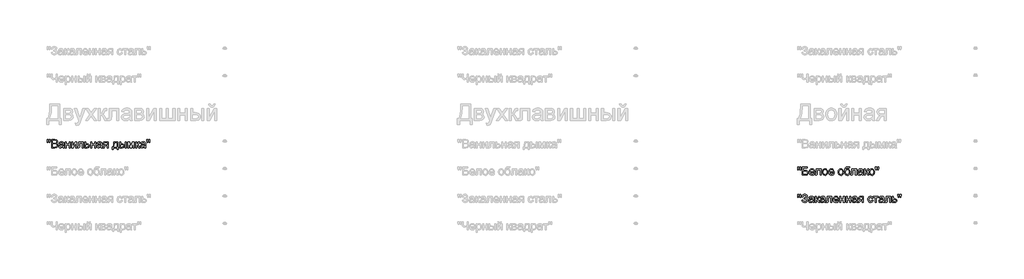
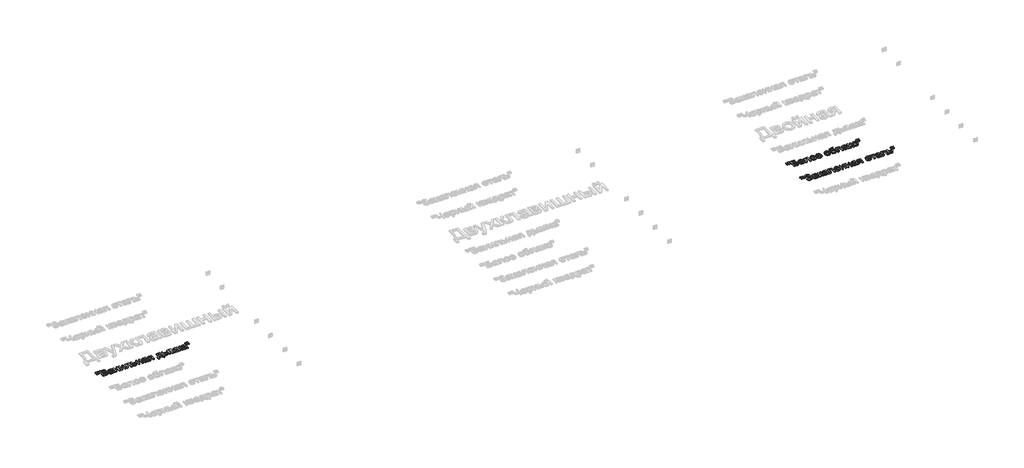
# One storey, part 134 of 168: 3 proxies.
"""IFC4 building model written with IfcOpenShell, lengths in millimetres."""

from ifc_helpers import new_model, si_unit, origin, origin_with_axes, place, context, project, spatial, polyline, outline, extrude, element, save

model = new_model("IFC4")

# Units and contexts
model_context = context("Model", 3, world=origin())
ifc_project = project(units=[si_unit("LENGTHUNIT", "METRE", prefix="MILLI")], contexts=[model_context])

# Site, building, storey
site = spatial("IfcSite", under=ifc_project)
building = spatial("IfcBuilding", under=site)
storey = spatial("IfcBuildingStorey", under=building, Name="Этаж 01", Elevation=0.0)

# Proxies
placement = place(None, origin())
element("IfcBuildingElementProxy", 1, Name="150", ObjectType="150", at=placement, inside=storey, context=model_context, shape_type="SweptSolid", body=[
    extrude(outline(polyline([(63580.1485789, -23951.873446), (63575.550054, -23922.7739802), (63575.550054, -23897.7212163), (63594.3856121, -23897.7212163), (63594.3856121, -23922.7739802), (63590.2653338, -23951.873446), (63580.1485789, -23951.873446)])), origin_with_axes(), (0.0, 0.0, 1.0), 20.0),
    extrude(outline(polyline([(63617.7093306, -23951.873446), (63613.2211703, -23922.7739802), (63613.2211703, -23897.7212163), (63632.0567284, -23897.7212163), (63632.0567284, -23922.7739802), (63627.6421445, -23951.873446), (63617.7093306, -23951.873446)])), origin_with_axes(), (0.0, 0.0, 1.0), 20.0),
    extrude(outline(polyline([(63657.9556209, -24048.4056816), (63657.9556209, -23897.7212163), (63715.4555767, -23897.7212163), (63743.6169435, -23902.1541944), (63753.0807078, -23907.7781904), (63760.2452096, -23915.7842223), (63766.2600803, -23935.0612389), (63761.2017028, -23952.6643923), (63745.9162059, -23966.0001146), (63756.5893823, -23971.5735269), (63764.4758526, -23980.0532069), (63769.3456905, -23990.8781346), (63770.9689698, -24003.48729), (63766.5359918, -24023.7391938), (63755.5547142, -24038.160168), (63739.1655713, -24045.8121135), (63715.0141183, -24048.4056816), (63657.9556209, -24048.4056816)]), holes=[polyline([(63676.791179, -23958.9367803), (63711.1881456, -23958.9367803), (63731.2745025, -23957.3180996), (63743.3594261, -23950.3467358), (63747.4245221, -23938.0778712), (63743.6353376, -23925.7906126), (63732.7828187, -23918.5249432), (63708.5761834, -23916.5567745), (63676.791179, -23916.5567745), (63676.791179, -23958.9367803)]), polyline([(63676.791179, -24029.5701234), (63715.4187885, -24029.5701234), (63729.3983043, -24028.8343594), (63741.2257105, -24024.7324752), (63749.061597, -24016.3631598), (63752.1334117, -24003.671231), (63748.5281681, -23989.0295275), (63736.8479148, -23980.2923302), (63713.5793786, -23977.7723385), (63676.791179, -23977.7723385), (63676.791179, -24029.5701234)])]), origin_with_axes(), (0.0, 0.0, 1.0), 20.0),
    extrude(outline(polyline([(63865.1467606, -24034.279013), (63846.8814195, -24047.0445182), (63826.7030921, -24050.7601263), (63810.9623412, -24048.5252432), (63799.3510657, -24041.8205939), (63792.1911624, -24031.6394596), (63789.804528, -24018.975122), (63793.4097715, -24004.0759012), (63802.8827329, -23993.2601705), (63816.0713024, -23987.079753), (63832.3684748, -23984.2470616), (63865.036396, -23977.7723385), (63865.1467606, -23973.5784838), (63863.8499765, -23965.1723802), (63859.9596244, -23959.6725443), (63851.2592153, -23955.5890542), (63839.1375035, -23954.2278908), (63820.0812162, -23957.8515285), (63810.9945309, -23970.7090042), (63792.1589727, -23968.3545594), (63800.3075589, -23949.9604597), (63816.7150959, -23939.1815172), (63841.5655247, -23935.3923327), (63864.3926025, -23938.7400588), (63877.2868664, -23947.1461624), (63883.0626137, -23959.9300617), (63883.9823187, -23976.4111751), (63883.9823187, -23999.8452582), (63884.9388119, -24032.5683617), (63888.6912083, -24048.4056816), (63869.8556501, -24048.4056816), (63865.1467606, -24034.279013)]), holes=[polyline([(63865.1467606, -23996.6078966), (63834.7597078, -24002.383644), (63818.5545059, -24005.4370645), (63811.2152601, -24010.4034715), (63808.6400861, -24017.6507468), (63814.2502865, -24027.841078), (63830.7130058, -24031.9245682), (63849.7692932, -24027.4180137), (63862.0565518, -24016.5103126), (63865.036396, -24001.9421856), (63865.1467606, -23996.6078966)])]), origin_with_axes(), (0.0, 0.0, 1.0), 20.0),
    extrude(outline(polyline([(63909.8812112, -23937.7467774), (63928.7167693, -23937.7467774), (63928.7167693, -23980.1267833), (63978.1601095, -23980.1267833), (63978.1601095, -23937.7467774), (63996.9956676, -23937.7467774), (63996.9956676, -24048.4056816), (63978.1601095, -24048.4056816), (63978.1601095, -23998.9623414), (63928.7167693, -23998.9623414), (63928.7167693, -24048.4056816), (63909.8812112, -24048.4056816), (63909.8812112, -23937.7467774)])), origin_with_axes(), (0.0, 0.0, 1.0), 20.0),
    extrude(outline(polyline([(64025.2490049, -23937.7467774), (64044.084563, -23937.7467774), (64044.084563, -24022.1389071), (64090.364118, -23937.7467774), (64114.7179061, -23937.7467774), (64114.7179061, -24048.4056816), (64095.8823479, -24048.4056816), (64095.8823479, -23964.5285867), (64049.8970985, -24048.4056816), (64025.2490049, -24048.4056816), (64025.2490049, -23937.7467774)])), origin_with_axes(), (0.0, 0.0, 1.0), 20.0),
    extrude(outline(polyline([(64152.3890224, -23937.7467774), (64237.1490341, -23937.7467774), (64237.1490341, -24048.295317), (64218.3134759, -24048.295317), (64218.3134759, -23956.5823356), (64171.2245806, -23956.5823356), (64171.2245806, -24009.3734019), (64169.9553877, -24033.72719), (64162.9840239, -24044.0094917), (64146.5029105, -24048.4056816), (64131.1990195, -24047.4491884), (64131.1990195, -24029.5701234), (64139.6235172, -24029.5701234), (64148.1399854, -24028.4112951), (64151.5428938, -24024.7324752), (64152.3890224, -24008.3065441), (64152.3890224, -23937.7467774)])), origin_with_axes(), (0.0, 0.0, 1.0), 20.0),
    extrude(outline(polyline([(64265.4023713, -23937.7467774), (64284.2379295, -23937.7467774), (64284.2379295, -23977.7723385), (64305.9429672, -23977.7723385), (64324.7601312, -23980.1313818), (64338.6844648, -23987.2085117), (64347.2929034, -23998.433511), (64350.162383, -24013.2361628), (64347.7205663, -24026.7144394), (64340.395116, -24038.0865916), (64327.6985887, -24045.8259091), (64309.1435405, -24048.4056816), (64265.4023713, -24048.4056816), (64265.4023713, -23937.7467774)]), holes=[polyline([(64284.2379295, -24029.5701234), (64301.8226888, -24029.5701234), (64324.539402, -24025.615392), (64329.6299692, -24020.552416), (64331.3268249, -24013.272951), (64326.3052356, -24001.6846682), (64318.2348244, -23997.8770895), (64304.066769, -23996.6078966), (64284.2379295, -23996.6078966), (64284.2379295, -24029.5701234)])]), origin_with_axes(), (0.0, 0.0, 1.0), 20.0),
    extrude(outline(polyline([(64373.7068307, -23937.7467774), (64392.5423889, -23937.7467774), (64392.5423889, -23980.1267833), (64441.985729, -23980.1267833), (64441.985729, -23937.7467774), (64460.8212872, -23937.7467774), (64460.8212872, -24048.4056816), (64441.985729, -24048.4056816), (64441.985729, -23998.9623414), (64392.5423889, -23998.9623414), (64392.5423889, -24048.4056816), (64373.7068307, -24048.4056816), (64373.7068307, -23937.7467774)])), origin_with_axes(), (0.0, 0.0, 1.0), 20.0),
    extrude(outline(polyline([(64559.7079675, -24034.279013), (64541.4426264, -24047.0445182), (64521.264299, -24050.7601263), (64505.5235481, -24048.5252432), (64493.9122726, -24041.8205939), (64486.7523693, -24031.6394596), (64484.3657349, -24018.975122), (64487.9709784, -24004.0759012), (64497.4439398, -23993.2601705), (64510.6325093, -23987.079753), (64526.9296817, -23984.2470616), (64559.5976029, -23977.7723385), (64559.7079675, -23973.5784838), (64558.4111834, -23965.1723802), (64554.5208313, -23959.6725443), (64545.8204221, -23955.5890542), (64533.6987104, -23954.2278908), (64514.6424231, -23957.8515285), (64505.5557378, -23970.7090042), (64486.7201796, -23968.3545594), (64494.8687658, -23949.9604597), (64511.2763028, -23939.1815172), (64536.1267316, -23935.3923327), (64558.9538094, -23938.7400588), (64571.8480733, -23947.1461624), (64577.6238206, -23959.9300617), (64578.5435256, -23976.4111751), (64578.5435256, -23999.8452582), (64579.5000188, -24032.5683617), (64583.2524152, -24048.4056816), (64564.416857, -24048.4056816), (64559.7079675, -24034.279013)]), holes=[polyline([(64559.7079675, -23996.6078966), (64529.3209147, -24002.383644), (64513.1157128, -24005.4370645), (64505.776467, -24010.4034715), (64503.201293, -24017.6507468), (64508.8114934, -24027.841078), (64525.2742127, -24031.9245682), (64544.3305001, -24027.4180137), (64556.6177587, -24016.5103126), (64559.5976029, -24001.9421856), (64559.7079675, -23996.6078966)])]), origin_with_axes(), (0.0, 0.0, 1.0), 20.0),
    extrude(outline(polyline([(64689.2024298, -23937.7467774), (64689.2024298, -24048.4056816), (64670.3668716, -24048.4056816), (64670.3668716, -24006.0256757), (64660.1029639, -24006.0256757), (64646.1234481, -24008.4169087), (64632.9900609, -24024.4933519), (64617.9804755, -24048.4056816), (64596.2018614, -24048.4056816), (64615.1109959, -24018.1657816), (64623.4619172, -24007.3132627), (64631.1506509, -24002.4940086), (64618.2747811, -23998.5484742), (64609.224884, -23991.0528785), (64603.872201, -23981.0832765), (64602.0879733, -23969.7157228), (64604.5251915, -23956.8214589), (64611.8368462, -23946.6127335), (64623.7654199, -23939.9632664), (64640.0533952, -23937.7467774), (64689.2024298, -23937.7467774)]), holes=[polyline([(64670.3668716, -23956.5823356), (64645.5348369, -23956.5823356), (64632.7095509, -23957.672186), (64625.4300859, -23960.9417372), (64620.9235315, -23971.1504626), (64622.583599, -23978.32876), (64627.5638015, -23983.3089625), (64651.0898551, -23987.1901176), (64670.3668716, -23987.1901176), (64670.3668716, -23956.5823356)])]), origin_with_axes(), (0.0, 0.0, 1.0), 20.0),
    extrude(outline(polyline([(64792.7979996, -23937.7467774), (64863.4313427, -23937.7467774), (64863.4313427, -24029.5701234), (64877.5580113, -24029.5701234), (64877.5580113, -24079.0134636), (64858.7224531, -24079.0134636), (64858.7224531, -24048.4056816), (64781.0257758, -24048.4056816), (64781.0257758, -24079.0134636), (64762.1902176, -24079.0134636), (64762.1902176, -24029.5701234), (64773.9624415, -24029.5701234), (64782.5202964, -24014.105284), (64788.5121744, -23993.6464466), (64792.7979996, -23937.7467774)]), holes=[polyline([(64809.279113, -23956.5823356), (64804.864529, -23999.4957703), (64795.1524444, -24029.5701234), (64844.5957845, -24029.5701234), (64844.5957845, -23956.5823356), (64809.279113, -23956.5823356)])]), origin_with_axes(), (0.0, 0.0, 1.0), 20.0),
    extrude(outline(polyline([(65002.3435841, -23937.7467774), (65021.1791422, -23937.7467774), (65021.1791422, -24048.4056816), (65002.3435841, -24048.4056816), (65002.3435841, -23937.7467774)])), origin_with_axes(), (0.0, 0.0, 1.0), 20.0),
    extrude(outline(polyline([(64898.7480142, -23937.7467774), (64917.5835724, -23937.7467774), (64917.5835724, -23977.7723385), (64940.8705027, -23977.7723385), (64960.9982463, -23980.1313818), (64975.9112627, -23987.2085117), (64985.1405023, -23998.433511), (64988.2169154, -24013.2361628), (64985.637143, -24026.7144394), (64977.8978255, -24038.0865916), (64964.4931253, -24045.8259091), (64944.9172046, -24048.4056816), (64898.7480142, -24048.4056816), (64898.7480142, -23937.7467774)]), holes=[polyline([(64917.5835724, -24029.5701234), (64936.9341653, -24029.5701234), (64961.9133528, -24025.615392), (64967.5143562, -24020.552416), (64969.3813573, -24013.272951), (64963.8447333, -24001.6846682), (64954.9649816, -23997.8770895), (64939.3989747, -23996.6078966), (64917.5835724, -23996.6078966), (64917.5835724, -24029.5701234)])]), origin_with_axes(), (0.0, 0.0, 1.0), 20.0),
    extrude(outline(polyline([(65049.4324794, -23937.7467774), (65081.8428832, -23937.7467774), (65106.8220707, -24026.3327619), (65133.7510327, -23937.7467774), (65164.8002731, -23937.7467774), (65164.8002731, -24048.4056816), (65145.964715, -24048.4056816), (65145.964715, -23959.3046623), (65118.8886001, -24048.4056816), (65094.1669301, -24048.4056816), (65068.2680376, -23955.0372312), (65068.2680376, -24048.4056816), (65049.4324794, -24048.4056816), (65049.4324794, -23937.7467774)])), origin_with_axes(), (0.0, 0.0, 1.0), 20.0),
    extrude(outline(polyline([(65193.0536104, -23937.7467774), (65211.8891685, -23937.7467774), (65211.8891685, -23984.8356728), (65224.5075209, -23981.4511584), (65234.845005, -23961.7326835), (65243.4350496, -23944.7181412), (65251.0134187, -23939.1815172), (65264.7905994, -23937.7467774), (65268.395843, -23937.7467774), (65268.395843, -23956.6927002), (65263.3190714, -23956.5823356), (65254.1220216, -23958.5688983), (65247.6472984, -23970.9665216), (65240.0505352, -23984.3758203), (65229.4003515, -23990.9425139), (65241.2829399, -23998.2725627), (65252.9447992, -24013.7144094), (65273.1047325, -24048.4056816), (65251.6940004, -24048.4056816), (65231.9387372, -24014.4501734), (65222.0059234, -24000.0843815), (65211.8891685, -23996.6078966), (65211.8891685, -24048.4056816), (65193.0536104, -24048.4056816), (65193.0536104, -23937.7467774)])), origin_with_axes(), (0.0, 0.0, 1.0), 20.0),
    extrude(outline(polyline([(65355.5102994, -24034.279013), (65337.2449584, -24047.0445182), (65317.0666309, -24050.7601263), (65301.3258801, -24048.5252432), (65289.7146046, -24041.8205939), (65282.5547013, -24031.6394596), (65280.1680668, -24018.975122), (65283.7733104, -24004.0759012), (65293.2462717, -23993.2601705), (65306.4348413, -23987.079753), (65322.7320137, -23984.2470616), (65355.3999348, -23977.7723385), (65355.5102994, -23973.5784838), (65354.2135154, -23965.1723802), (65350.3231633, -23959.6725443), (65341.6227541, -23955.5890542), (65329.5010424, -23954.2278908), (65310.444755, -23957.8515285), (65301.3580697, -23970.7090042), (65282.5225116, -23968.3545594), (65290.6710978, -23949.9604597), (65307.0786348, -23939.1815172), (65331.9290635, -23935.3923327), (65354.7561413, -23938.7400588), (65367.6504053, -23947.1461624), (65373.4261526, -23959.9300617), (65374.3458576, -23976.4111751), (65374.3458576, -23999.8452582), (65375.3023508, -24032.5683617), (65379.0547471, -24048.4056816), (65360.219189, -24048.4056816), (65355.5102994, -24034.279013)]), holes=[polyline([(65355.5102994, -23996.6078966), (65325.1232466, -24002.383644), (65308.9180447, -24005.4370645), (65301.5787989, -24010.4034715), (65299.003625, -24017.6507468), (65304.6138254, -24027.841078), (65321.0765447, -24031.9245682), (65340.132832, -24027.4180137), (65352.4200907, -24016.5103126), (65355.3999348, -24001.9421856), (65355.5102994, -23996.6078966)])]), origin_with_axes(), (0.0, 0.0, 1.0), 20.0),
    extrude(outline(polyline([(65400.1343854, -23951.873446), (65395.5358605, -23922.7739802), (65395.5358605, -23897.7212163), (65414.3714187, -23897.7212163), (65414.3714187, -23922.7739802), (65410.2511403, -23951.873446), (65400.1343854, -23951.873446)])), origin_with_axes(), (0.0, 0.0, 1.0), 20.0),
    extrude(outline(polyline([(65437.6951372, -23951.873446), (65433.2069768, -23922.7739802), (65433.2069768, -23897.7212163), (65452.042535, -23897.7212163), (65452.042535, -23922.7739802), (65447.627951, -23951.873446), (65437.6951372, -23951.873446)])), origin_with_axes(), (0.0, 0.0, 1.0), 20.0),
])
element("IfcBuildingElementProxy", 2, Name="150", ObjectType="150", at=placement, inside=storey, context=model_context, shape_type="SweptSolid", body=[
    extrude(outline(polyline([(77280.1485789, -24451.873446), (77275.550054, -24422.7739802), (77275.550054, -24397.7212163), (77294.3856121, -24397.7212163), (77294.3856121, -24422.7739802), (77290.2653338, -24451.873446), (77280.1485789, -24451.873446)])), origin_with_axes(), (0.0, 0.0, 1.0), 20.0),
    extrude(outline(polyline([(77317.7093306, -24451.873446), (77313.2211703, -24422.7739802), (77313.2211703, -24397.7212163), (77332.0567284, -24397.7212163), (77332.0567284, -24422.7739802), (77327.6421445, -24451.873446), (77317.7093306, -24451.873446)])), origin_with_axes(), (0.0, 0.0, 1.0), 20.0),
    extrude(outline(polyline([(77357.9556209, -24397.7212163), (77452.1334117, -24397.7212163), (77452.1334117, -24416.5567745), (77376.791179, -24416.5567745), (77376.791179, -24461.2912251), (77412.0710624, -24461.2912251), (77443.157091, -24465.1171979), (77453.5589544, -24470.6446248), (77461.6615553, -24479.5749603), (77466.8762826, -24491.0712726), (77468.614525, -24504.2966303), (77463.6665122, -24525.7625448), (77448.8960501, -24542.0781113), (77435.6247071, -24546.823789), (77415.4555767, -24548.4056816), (77357.9556209, -24548.4056816), (77357.9556209, -24397.7212163)]), holes=[polyline([(77376.791179, -24529.5701234), (77417.1478339, -24529.5701234), (77431.4124583, -24528.015822), (77441.6119866, -24523.3529177), (77447.7372218, -24515.5814105), (77449.7789669, -24504.7013005), (77445.1068655, -24489.9492325), (77432.102237, -24482.0765578), (77403.7201411, -24480.1267833), (77376.791179, -24480.1267833), (77376.791179, -24529.5701234)])]), origin_with_axes(), (0.0, 0.0, 1.0), 20.0),
    extrude(outline(polyline([(77569.6349209, -24515.4434548), (77588.1025971, -24517.7978996), (77581.4485315, -24531.713036), (77570.8305374, -24542.1148995), (77556.4877381, -24548.5988196), (77538.6592569, -24550.7601263), (77516.5587461, -24547.0307226), (77499.5534008, -24535.8425114), (77488.710079, -24517.9220597), (77485.0956384, -24493.9959345), (77488.7468672, -24469.2650674), (77499.7005536, -24450.7698), (77516.4759726, -24439.2366995), (77537.5923991, -24435.3923327), (77558.0512366, -24439.2275025), (77574.3989927, -24450.7330118), (77585.1181544, -24469.191491), (77588.6912083, -24493.8855699), (77588.5808437, -24498.9623414), (77503.9311966, -24498.9623414), (77507.1915508, -24513.0614189), (77514.7653213, -24523.4264941), (77525.6960151, -24529.8000497), (77539.0271389, -24531.9245682), (77557.4948151, -24527.9882308), (77569.6349209, -24515.4434548)]), holes=[polyline([(77503.9311966, -24480.1267833), (77569.8556501, -24480.1267833), (77567.3080673, -24470.1755753), (77562.3140692, -24463.0570587), (77551.3327917, -24456.4351828), (77537.5188227, -24454.2278908), (77524.8222954, -24455.9891259), (77514.3238629, -24461.272831), (77507.0260039, -24469.5087892), (77503.9311966, -24480.1267833)])]), origin_with_axes(), (0.0, 0.0, 1.0), 20.0),
    extrude(outline(polyline([(77616.9445455, -24437.7467774), (77701.7045572, -24437.7467774), (77701.7045572, -24548.295317), (77682.868999, -24548.295317), (77682.868999, -24456.5823356), (77635.7801036, -24456.5823356), (77635.7801036, -24509.3734019), (77634.5109108, -24533.72719), (77627.539547, -24544.0094917), (77611.0584336, -24548.4056816), (77595.7545426, -24547.4491884), (77595.7545426, -24529.5701234), (77604.1790403, -24529.5701234), (77612.6955084, -24528.4112951), (77616.0984169, -24524.7324752), (77616.9445455, -24508.3065441), (77616.9445455, -24437.7467774)])), origin_with_axes(), (0.0, 0.0, 1.0), 20.0),
    extrude(outline(polyline([(77725.2490049, -24493.0762295), (77729.323298, -24466.3955878), (77741.5461773, -24447.6428031), (77756.6477332, -24438.4549503), (77774.7291332, -24435.3923327), (77794.516586, -24439.1217364), (77810.3217163, -24450.3099476), (77820.6821929, -24468.0740494), (77824.1356852, -24491.5311251), (77822.6089749, -24510.5598213), (77818.0288441, -24525.0451749), (77810.5286499, -24535.8930952), (77800.2417496, -24544.0094917), (77788.0234688, -24549.0724677), (77774.7291332, -24550.7601263), (77754.7025571, -24547.0445182), (77738.915821, -24535.8976937), (77728.6657089, -24517.7611114), (77725.2490049, -24493.0762295)]), holes=[polyline([(77744.084563, -24493.0394413), (77746.2642638, -24510.0861732), (77752.8033663, -24522.2308776), (77762.6442097, -24529.5011455), (77774.7291332, -24531.9245682), (77786.7588745, -24529.48735), (77796.5813237, -24522.1756953), (77803.1204262, -24509.8700426), (77805.300127, -24492.4508301), (77803.1066306, -24475.9007388), (77796.5261414, -24463.9215814), (77786.6898966, -24456.6513134), (77774.7291332, -24454.2278908), (77762.6442097, -24456.6421164), (77752.8033663, -24463.8847932), (77746.2642638, -24476.0019064), (77744.084563, -24493.0394413)])]), origin_with_axes(), (0.0, 0.0, 1.0), 20.0),
    extrude(outline(polyline([(77922.8016363, -24515.4434548), (77941.2693124, -24517.7978996), (77934.6152469, -24531.713036), (77923.9972528, -24542.1148995), (77909.6544535, -24548.5988196), (77891.8259723, -24550.7601263), (77869.7254614, -24547.0307226), (77852.7201162, -24535.8425114), (77841.8767944, -24517.9220597), (77838.2623538, -24493.9959345), (77841.9135826, -24469.2650674), (77852.867269, -24450.7698), (77869.642688, -24439.2366995), (77890.7591145, -24435.3923327), (77911.217952, -24439.2275025), (77927.5657081, -24450.7330118), (77938.2848698, -24469.191491), (77941.8579236, -24493.8855699), (77941.747559, -24498.9623414), (77857.0979119, -24498.9623414), (77860.3582661, -24513.0614189), (77867.9320367, -24523.4264941), (77878.8627305, -24529.8000497), (77892.1938543, -24531.9245682), (77910.6615304, -24527.9882308), (77922.8016363, -24515.4434548)]), holes=[polyline([(77857.0979119, -24480.1267833), (77923.0223655, -24480.1267833), (77920.4747827, -24470.1755753), (77915.4807846, -24463.0570587), (77904.499507, -24456.4351828), (77890.6855381, -24454.2278908), (77877.9890107, -24455.9891259), (77867.4905783, -24461.272831), (77860.1927192, -24469.5087892), (77857.0979119, -24480.1267833)])]), origin_with_axes(), (0.0, 0.0, 1.0), 20.0),
    extrude(outline(polyline([(78014.8457115, -24493.0762295), (78018.9200046, -24466.3955878), (78031.1428839, -24447.6428031), (78046.2444398, -24438.4549503), (78064.3258398, -24435.3923327), (78084.1132926, -24439.1217364), (78099.9184229, -24450.3099476), (78110.2788995, -24468.0740494), (78113.7323918, -24491.5311251), (78112.2056815, -24510.5598213), (78107.6255507, -24525.0451749), (78100.1253565, -24535.8930952), (78089.8384562, -24544.0094917), (78077.6201754, -24549.0724677), (78064.3258398, -24550.7601263), (78044.2992637, -24547.0445182), (78028.5125276, -24535.8976937), (78018.2624155, -24517.7611114), (78014.8457115, -24493.0762295)]), holes=[polyline([(78033.6812696, -24493.0394413), (78035.8609704, -24510.0861732), (78042.4000729, -24522.2308776), (78052.2409163, -24529.5011455), (78064.3258398, -24531.9245682), (78076.3555811, -24529.48735), (78086.1780303, -24522.1756953), (78092.7171328, -24509.8700426), (78094.8968336, -24492.4508301), (78092.7033372, -24475.9007388), (78086.122848, -24463.9215814), (78076.2866032, -24456.6513134), (78064.3258398, -24454.2278908), (78052.2409163, -24456.6421164), (78042.4000729, -24463.8847932), (78035.8609704, -24476.0019064), (78033.6812696, -24493.0394413)])]), origin_with_axes(), (0.0, 0.0, 1.0), 20.0),
    extrude(outline(polyline([(78212.6190721, -24395.3667716), (78229.1001855, -24395.3667716), (78224.2441431, -24410.0636573), (78214.6424231, -24415.3795521), (78191.576222, -24416.5567745), (78160.5085875, -24420.897782), (78153.3808738, -24426.5447707), (78148.5892108, -24434.8037215), (78144.560903, -24459.4150269), (78160.8764695, -24441.3888092), (78170.7954878, -24436.8914518), (78181.9009255, -24435.3923327), (78201.4998388, -24439.2045098), (78217.401538, -24450.6410414), (78227.9413572, -24468.5798871), (78231.4546302, -24491.8990071), (78229.7117893, -24509.8792396), (78224.4832664, -24524.3094109), (78207.9469707, -24543.8623389), (78196.6529935, -24549.0356795), (78181.9009255, -24550.7601263), (78164.9001788, -24548.5390388), (78152.1576662, -24541.8757762), (78142.7812738, -24531.7498242), (78135.8788879, -24519.1406689), (78131.6298508, -24500.1533594), (78130.2135052, -24470.8929452), (78133.786559, -24434.7531377), (78144.5057207, -24412.7124076), (78162.6377045, -24401.4690142), (78188.449225, -24397.7212163), (78209.4184987, -24397.2981521), (78212.6190721, -24395.3667716)]), holes=[polyline([(78212.6190721, -24491.3103959), (78210.577327, -24476.48935), (78204.4520918, -24464.6205572), (78194.6112484, -24456.8260574), (78181.4226789, -24454.2278908), (78167.6730893, -24456.9732102), (78157.473561, -24465.2091684), (78151.1551877, -24478.0344544), (78149.0490633, -24494.5477575), (78151.3759169, -24510.5552228), (78158.3564778, -24522.304454), (78168.7491442, -24529.5195396), (78181.3123143, -24531.9245682), (78193.9398638, -24529.1424606), (78203.937057, -24520.7961378), (78210.4485683, -24507.8604872), (78212.6190721, -24491.3103959)])]), origin_with_axes(), (0.0, 0.0, 1.0), 20.0),
    extrude(outline(polyline([(78264.416857, -24437.7467774), (78349.1768687, -24437.7467774), (78349.1768687, -24548.295317), (78330.3413105, -24548.295317), (78330.3413105, -24456.5823356), (78283.2524152, -24456.5823356), (78283.2524152, -24509.3734019), (78281.9832223, -24533.72719), (78275.0118585, -24544.0094917), (78258.5307451, -24548.4056816), (78243.2268541, -24547.4491884), (78243.2268541, -24529.5701234), (78251.6513518, -24529.5701234), (78260.16782, -24528.4112951), (78263.5707284, -24524.7324752), (78264.416857, -24508.3065441), (78264.416857, -24437.7467774)])), origin_with_axes(), (0.0, 0.0, 1.0), 20.0),
    extrude(outline(polyline([(78448.063549, -24534.279013), (78429.7982079, -24547.0445182), (78409.6198805, -24550.7601263), (78393.8791296, -24548.5252432), (78382.2678542, -24541.8205939), (78375.1079508, -24531.6394596), (78372.7213164, -24518.975122), (78376.3265599, -24504.0759012), (78385.7995213, -24493.2601705), (78398.9880908, -24487.079753), (78415.2852632, -24484.2470616), (78447.9531844, -24477.7723385), (78448.063549, -24473.5784838), (78446.766765, -24465.1723802), (78442.8764129, -24459.6725443), (78434.1760037, -24455.5890542), (78422.0542919, -24454.2278908), (78402.9980046, -24457.8515285), (78393.9113193, -24470.7090042), (78375.0757612, -24468.3545594), (78383.2243473, -24449.9604597), (78399.6318843, -24439.1815172), (78424.4823131, -24435.3923327), (78447.3093909, -24438.7400588), (78460.2036548, -24447.1461624), (78465.9794022, -24459.9300617), (78466.8991071, -24476.4111751), (78466.8991071, -24499.8452582), (78467.8556003, -24532.5683617), (78471.6079967, -24548.4056816), (78452.7724385, -24548.4056816), (78448.063549, -24534.279013)]), holes=[polyline([(78448.063549, -24496.6078966), (78417.6764962, -24502.383644), (78401.4712943, -24505.4370645), (78394.1320485, -24510.4034715), (78391.5568745, -24517.6507468), (78397.167075, -24527.841078), (78413.6297942, -24531.9245682), (78432.6860816, -24527.4180137), (78444.9733402, -24516.5103126), (78447.9531844, -24501.9421856), (78448.063549, -24496.6078966)])]), origin_with_axes(), (0.0, 0.0, 1.0), 20.0),
    extrude(outline(polyline([(78492.7979996, -24437.7467774), (78511.6335578, -24437.7467774), (78511.6335578, -24484.8356728), (78524.2519102, -24481.4511584), (78534.5893943, -24461.7326835), (78543.1794388, -24444.7181412), (78550.7578079, -24439.1815172), (78564.5349887, -24437.7467774), (78568.1402322, -24437.7467774), (78568.1402322, -24456.6927002), (78563.0634607, -24456.5823356), (78553.8664108, -24458.5688983), (78547.3916877, -24470.9665216), (78539.7949245, -24484.3758203), (78529.1447407, -24490.9425139), (78541.0273292, -24498.2725627), (78552.6891884, -24513.7144094), (78572.8491218, -24548.4056816), (78551.4383896, -24548.4056816), (78531.6831265, -24514.4501734), (78521.7503126, -24500.0843815), (78511.6335578, -24496.6078966), (78511.6335578, -24548.4056816), (78492.7979996, -24548.4056816), (78492.7979996, -24437.7467774)])), origin_with_axes(), (0.0, 0.0, 1.0), 20.0),
    extrude(outline(polyline([(78579.9124561, -24493.0762295), (78583.9867492, -24466.3955878), (78596.2096285, -24447.6428031), (78611.3111844, -24438.4549503), (78629.3925844, -24435.3923327), (78649.1800372, -24439.1217364), (78664.9851674, -24450.3099476), (78675.3456441, -24468.0740494), (78678.7991364, -24491.5311251), (78677.2724261, -24510.5598213), (78672.6922952, -24525.0451749), (78665.1921011, -24535.8930952), (78654.9052008, -24544.0094917), (78642.68692, -24549.0724677), (78629.3925844, -24550.7601263), (78609.3660083, -24547.0445182), (78593.5792722, -24535.8976937), (78583.3291601, -24517.7611114), (78579.9124561, -24493.0762295)]), holes=[polyline([(78598.7480142, -24493.0394413), (78600.927715, -24510.0861732), (78607.4668175, -24522.2308776), (78617.3076609, -24529.5011455), (78629.3925844, -24531.9245682), (78641.4223257, -24529.48735), (78651.2447749, -24522.1756953), (78657.7838774, -24509.8700426), (78659.9635782, -24492.4508301), (78657.7700818, -24475.9007388), (78651.1895926, -24463.9215814), (78641.3533478, -24456.6513134), (78629.3925844, -24454.2278908), (78617.3076609, -24456.6421164), (78607.4668175, -24463.8847932), (78600.927715, -24476.0019064), (78598.7480142, -24493.0394413)])]), origin_with_axes(), (0.0, 0.0, 1.0), 20.0),
    extrude(outline(polyline([(78699.8787747, -24451.873446), (78695.2802498, -24422.7739802), (78695.2802498, -24397.7212163), (78714.1158079, -24397.7212163), (78714.1158079, -24422.7739802), (78709.9955296, -24451.873446), (78699.8787747, -24451.873446)])), origin_with_axes(), (0.0, 0.0, 1.0), 20.0),
    extrude(outline(polyline([(78737.4395264, -24451.873446), (78732.9513661, -24422.7739802), (78732.9513661, -24397.7212163), (78751.7869242, -24397.7212163), (78751.7869242, -24422.7739802), (78747.3723403, -24451.873446), (78737.4395264, -24451.873446)])), origin_with_axes(), (0.0, 0.0, 1.0), 20.0),
])
element("IfcBuildingElementProxy", 3, Name="150", ObjectType="150", at=placement, inside=storey, context=model_context, shape_type="SweptSolid", body=[
    extrude(outline(polyline([(77280.1485789, -24951.873446), (77275.550054, -24922.7739802), (77275.550054, -24897.7212163), (77294.3856121, -24897.7212163), (77294.3856121, -24922.7739802), (77290.2653338, -24951.873446), (77280.1485789, -24951.873446)])), origin_with_axes(), (0.0, 0.0, 1.0), 20.0),
    extrude(outline(polyline([(77317.7093306, -24951.873446), (77313.2211703, -24922.7739802), (77313.2211703, -24897.7212163), (77332.0567284, -24897.7212163), (77332.0567284, -24922.7739802), (77327.6421445, -24951.873446), (77317.7093306, -24951.873446)])), origin_with_axes(), (0.0, 0.0, 1.0), 20.0),
    extrude(outline(polyline([(77350.8922866, -25006.0256757), (77369.7278447, -25001.3167862), (77381.2977335, -25021.7158428), (77392.2284273, -25029.3723868), (77406.2217387, -25031.9245682), (77420.398991, -25030.0069833), (77431.2193202, -25024.2542286), (77438.0757209, -25015.7883442), (77440.3611878, -25005.7313701), (77437.8641888, -24995.1961495), (77430.3731916, -24987.0613589), (77418.5779752, -24981.8604272), (77403.1683181, -24980.1267833), (77393.2722924, -24980.1267833), (77393.2722924, -24961.2912251), (77414.591054, -24959.7645148), (77427.6324708, -24951.9654165), (77433.2978535, -24937.7099892), (77431.4124583, -24928.8394346), (77425.7562726, -24921.2104817), (77416.8811195, -24915.9543677), (77405.3388219, -24914.2023297), (77386.1169876, -24919.591801), (77375.117316, -24933.8840165), (77372.0822895, -24947.1645565), (77353.2467313, -24942.455667), (77359.0983543, -24921.8542752), (77369.7002536, -24907.1389954), (77385.0524291, -24898.3098275), (77405.1548809, -24895.3667716), (77424.5468605, -24898.4247907), (77439.4598769, -24907.5988479), (77448.965028, -24920.8655924), (77452.1334117, -24936.201673), (77447.2037929, -24954.8440931), (77432.4149367, -24968.7592296), (77442.8903765, -24973.5830823), (77451.5080123, -24981.7270699), (77457.2745625, -24992.4922168), (77459.196746, -25005.1795471), (77455.508729, -25023.0172254), (77444.444678, -25037.6819214), (77427.2921799, -25047.4905751), (77405.3388219, -25050.7601263), (77386.2365493, -25047.9642232), (77370.7947025, -25039.5765137), (77359.0132816, -25025.5969979), (77350.8922866, -25006.0256757)])), origin_with_axes(), (0.0, 0.0, 1.0), 20.0),
    extrude(outline(polyline([(77553.3745367, -25034.279013), (77535.1091957, -25047.0445182), (77514.9308682, -25050.7601263), (77499.1901174, -25048.5252432), (77487.5788419, -25041.8205939), (77480.4189386, -25031.6394596), (77478.0323041, -25018.975122), (77481.6375477, -25004.0759012), (77491.110509, -24993.2601705), (77504.2990786, -24987.079753), (77520.596251, -24984.2470616), (77553.2641721, -24977.7723385), (77553.3745367, -24973.5784838), (77552.0777527, -24965.1723802), (77548.1874006, -24959.6725443), (77539.4869914, -24955.5890542), (77527.3652797, -24954.2278908), (77508.3089923, -24957.8515285), (77499.222307, -24970.7090042), (77480.3867489, -24968.3545594), (77488.5353351, -24949.9604597), (77504.9428721, -24939.1815172), (77529.7933008, -24935.3923327), (77552.6203786, -24938.7400588), (77565.5146426, -24947.1461624), (77571.2903899, -24959.9300617), (77572.2100949, -24976.4111751), (77572.2100949, -24999.8452582), (77573.1665881, -25032.5683617), (77576.9189844, -25048.4056816), (77558.0834263, -25048.4056816), (77553.3745367, -25034.279013)]), holes=[polyline([(77553.3745367, -24996.6078966), (77522.9874839, -25002.383644), (77506.782282, -25005.4370645), (77499.4430362, -25010.4034715), (77496.8678623, -25017.6507468), (77502.4780627, -25027.841078), (77518.940782, -25031.9245682), (77537.9970693, -25027.4180137), (77550.284328, -25016.5103126), (77553.2641721, -25001.9421856), (77553.3745367, -24996.6078966)])]), origin_with_axes(), (0.0, 0.0, 1.0), 20.0),
    extrude(outline(polyline([(77598.1089873, -24937.7467774), (77616.9445455, -24937.7467774), (77616.9445455, -24984.8356728), (77629.5628979, -24981.4511584), (77639.900382, -24961.7326835), (77648.4904266, -24944.7181412), (77656.0687957, -24939.1815172), (77669.8459764, -24937.7467774), (77673.4512199, -24937.7467774), (77673.4512199, -24956.6927002), (77668.3744484, -24956.5823356), (77659.1773985, -24958.5688983), (77652.7026754, -24970.9665216), (77645.1059122, -24984.3758203), (77634.4557285, -24990.9425139), (77646.3383169, -24998.2725627), (77658.0001762, -25013.7144094), (77678.1601095, -25048.4056816), (77656.7493774, -25048.4056816), (77636.9941142, -25014.4501734), (77627.0613004, -25000.0843815), (77616.9445455, -24996.6078966), (77616.9445455, -25048.4056816), (77598.1089873, -25048.4056816), (77598.1089873, -24937.7467774)])), origin_with_axes(), (0.0, 0.0, 1.0), 20.0),
    extrude(outline(polyline([(77760.5656764, -25034.279013), (77742.3003353, -25047.0445182), (77722.1220079, -25050.7601263), (77706.381257, -25048.5252432), (77694.7699816, -25041.8205939), (77687.6100782, -25031.6394596), (77685.2234438, -25018.975122), (77688.8286873, -25004.0759012), (77698.3016487, -24993.2601705), (77711.4902183, -24987.079753), (77727.7873906, -24984.2470616), (77760.4553118, -24977.7723385), (77760.5656764, -24973.5784838), (77759.2688924, -24965.1723802), (77755.3785403, -24959.6725443), (77746.6781311, -24955.5890542), (77734.5564193, -24954.2278908), (77715.500132, -24957.8515285), (77706.4134467, -24970.7090042), (77687.5778886, -24968.3545594), (77695.7264748, -24949.9604597), (77712.1340117, -24939.1815172), (77736.9844405, -24935.3923327), (77759.8115183, -24938.7400588), (77772.7057822, -24947.1461624), (77778.4815296, -24959.9300617), (77779.4012346, -24976.4111751), (77779.4012346, -24999.8452582), (77780.3577277, -25032.5683617), (77784.1101241, -25048.4056816), (77765.2745659, -25048.4056816), (77760.5656764, -25034.279013)]), holes=[polyline([(77760.5656764, -24996.6078966), (77730.1786236, -25002.383644), (77713.9734217, -25005.4370645), (77706.6341759, -25010.4034715), (77704.0590019, -25017.6507468), (77709.6692024, -25027.841078), (77726.1319217, -25031.9245682), (77745.188209, -25027.4180137), (77757.4754676, -25016.5103126), (77760.4553118, -25001.9421856), (77760.5656764, -24996.6078966)])]), origin_with_axes(), (0.0, 0.0, 1.0), 20.0),
    extrude(outline(polyline([(77814.7179061, -24937.7467774), (77899.4779178, -24937.7467774), (77899.4779178, -25048.295317), (77880.6423596, -25048.295317), (77880.6423596, -24956.5823356), (77833.5534643, -24956.5823356), (77833.5534643, -25009.3734019), (77832.2842714, -25033.72719), (77825.3129076, -25044.0094917), (77808.8317942, -25048.4056816), (77793.5279032, -25047.4491884), (77793.5279032, -25029.5701234), (77801.9524009, -25029.5701234), (77810.4688691, -25028.4112951), (77813.8717775, -25024.7324752), (77814.7179061, -25008.3065441), (77814.7179061, -24937.7467774)])), origin_with_axes(), (0.0, 0.0, 1.0), 20.0),
    extrude(outline(polyline([(78005.2072032, -25015.4434548), (78023.6748794, -25017.7978996), (78017.0208138, -25031.713036), (78006.4028197, -25042.1148995), (77992.0600204, -25048.5988196), (77974.2315392, -25050.7601263), (77952.1310283, -25047.0307226), (77935.1256831, -25035.8425114), (77924.2823613, -25017.9220597), (77920.6679207, -24993.9959345), (77924.3191495, -24969.2650674), (77935.2728359, -24950.7698), (77952.0482549, -24939.2366995), (77973.1646814, -24935.3923327), (77993.6235189, -24939.2275025), (78009.971275, -24950.7330118), (78020.6904367, -24969.191491), (78024.2634906, -24993.8855699), (78024.153126, -24998.9623414), (77939.5034789, -24998.9623414), (77942.763833, -25013.0614189), (77950.3376036, -25023.4264941), (77961.2682974, -25029.8000497), (77974.5994212, -25031.9245682), (77993.0670974, -25027.9882308), (78005.2072032, -25015.4434548)]), holes=[polyline([(77939.5034789, -24980.1267833), (78005.4279324, -24980.1267833), (78002.8803496, -24970.1755753), (77997.8863515, -24963.0570587), (77986.9050739, -24956.4351828), (77973.091105, -24954.2278908), (77960.3945777, -24955.9891259), (77949.8961452, -24961.272831), (77942.5982861, -24969.5087892), (77939.5034789, -24980.1267833)])]), origin_with_axes(), (0.0, 0.0, 1.0), 20.0),
    extrude(outline(polyline([(78043.0990487, -24937.7467774), (78061.9346069, -24937.7467774), (78061.9346069, -24980.1267833), (78111.377947, -24980.1267833), (78111.377947, -24937.7467774), (78130.2135052, -24937.7467774), (78130.2135052, -25048.4056816), (78111.377947, -25048.4056816), (78111.377947, -24998.9623414), (78061.9346069, -24998.9623414), (78061.9346069, -25048.4056816), (78043.0990487, -25048.4056816), (78043.0990487, -24937.7467774)])), origin_with_axes(), (0.0, 0.0, 1.0), 20.0),
    extrude(outline(polyline([(78158.4668424, -24937.7467774), (78177.3024005, -24937.7467774), (78177.3024005, -24980.1267833), (78226.7457407, -24980.1267833), (78226.7457407, -24937.7467774), (78245.5812988, -24937.7467774), (78245.5812988, -25048.4056816), (78226.7457407, -25048.4056816), (78226.7457407, -24998.9623414), (78177.3024005, -24998.9623414), (78177.3024005, -25048.4056816), (78158.4668424, -25048.4056816), (78158.4668424, -24937.7467774)])), origin_with_axes(), (0.0, 0.0, 1.0), 20.0),
    extrude(outline(polyline([(78344.4679792, -25034.279013), (78326.2026381, -25047.0445182), (78306.0243107, -25050.7601263), (78290.2835598, -25048.5252432), (78278.6722843, -25041.8205939), (78271.512381, -25031.6394596), (78269.1257465, -25018.975122), (78272.7309901, -25004.0759012), (78282.2039515, -24993.2601705), (78295.392521, -24987.079753), (78311.6896934, -24984.2470616), (78344.3576146, -24977.7723385), (78344.4679792, -24973.5784838), (78343.1711951, -24965.1723802), (78339.280843, -24959.6725443), (78330.5804338, -24955.5890542), (78318.4587221, -24954.2278908), (78299.4024347, -24957.8515285), (78290.3157495, -24970.7090042), (78271.4801913, -24968.3545594), (78279.6287775, -24949.9604597), (78296.0363145, -24939.1815172), (78320.8867433, -24935.3923327), (78343.7138211, -24938.7400588), (78356.608085, -24947.1461624), (78362.3838323, -24959.9300617), (78363.3035373, -24976.4111751), (78363.3035373, -24999.8452582), (78364.2600305, -25032.5683617), (78368.0124268, -25048.4056816), (78349.1768687, -25048.4056816), (78344.4679792, -25034.279013)]), holes=[polyline([(78344.4679792, -24996.6078966), (78314.0809264, -25002.383644), (78297.8757245, -25005.4370645), (78290.5364787, -25010.4034715), (78287.9613047, -25017.6507468), (78293.5715051, -25027.841078), (78310.0342244, -25031.9245682), (78329.0905118, -25027.4180137), (78341.3777704, -25016.5103126), (78344.3576146, -25001.9421856), (78344.4679792, -24996.6078966)])]), origin_with_axes(), (0.0, 0.0, 1.0), 20.0),
    extrude(outline(polyline([(78473.9624415, -24937.7467774), (78473.9624415, -25048.4056816), (78455.1268833, -25048.4056816), (78455.1268833, -25006.0256757), (78444.8629756, -25006.0256757), (78430.8834598, -25008.4169087), (78417.7500726, -25024.4933519), (78402.7404872, -25048.4056816), (78380.9618731, -25048.4056816), (78399.8710076, -25018.1657816), (78408.2219289, -25007.3132627), (78415.9106626, -25002.4940086), (78403.0347928, -24998.5484742), (78393.9848957, -24991.0528785), (78388.6322127, -24981.0832765), (78386.847985, -24969.7157228), (78389.2852032, -24956.8214589), (78396.5968579, -24946.6127335), (78408.5254316, -24939.9632664), (78424.8134069, -24937.7467774), (78473.9624415, -24937.7467774)]), holes=[polyline([(78455.1268833, -24956.5823356), (78430.2948486, -24956.5823356), (78417.4695626, -24957.672186), (78410.1900976, -24960.9417372), (78405.6835431, -24971.1504626), (78407.3436107, -24978.32876), (78412.3238132, -24983.3089625), (78435.8498668, -24987.1901176), (78455.1268833, -24987.1901176), (78455.1268833, -24956.5823356)])]), origin_with_axes(), (0.0, 0.0, 1.0), 20.0),
    extrude(outline(polyline([(78631.710241, -25008.3801205), (78650.5457991, -25010.7345653), (78645.2942837, -25027.4869916), (78635.4258491, -25040.1467308), (78621.8693976, -25048.1067774), (78605.5538311, -25050.7601263), (78585.518058, -25047.0583138), (78569.8508835, -25035.952876), (78559.7387272, -25017.9312568), (78556.3680084, -24993.4808997), (78557.8073467, -24976.7192763), (78562.1253616, -24962.192536), (78569.391031, -24950.4616989), (78579.6733328, -24942.087785), (78591.974387, -24937.0661957), (78605.2963137, -24935.3923327), (78621.2118085, -24937.6915951), (78633.9359271, -24944.5893825), (78643.0639991, -24955.7178129), (78648.1913544, -24970.7090042), (78629.3557962, -24973.063449), (78620.6185988, -24958.9551744), (78605.4434665, -24954.2278908), (78593.271171, -24956.5547444), (78583.6096701, -24963.5353053), (78577.3050924, -24975.5466524), (78575.2035665, -24992.9658649), (78577.2591072, -25010.6196021), (78583.4257291, -25022.672336), (78592.9124861, -25029.6115101), (78604.9284317, -25031.9245682), (78614.6819031, -25030.4806314), (78622.678738, -25026.1488209), (78628.4958721, -25018.8187721), (78631.710241, -25008.3801205)])), origin_with_axes(), (0.0, 0.0, 1.0), 20.0),
    extrude(outline(polyline([(78657.6091334, -24937.7467774), (78747.0780347, -24937.7467774), (78747.0780347, -24956.5823356), (78711.7613631, -24956.5823356), (78711.7613631, -25048.4056816), (78692.925805, -25048.4056816), (78692.925805, -24956.5823356), (78657.6091334, -24956.5823356), (78657.6091334, -24937.7467774)])), origin_with_axes(), (0.0, 0.0, 1.0), 20.0),
    extrude(outline(polyline([(78834.1924911, -25034.279013), (78815.9271501, -25047.0445182), (78795.7488226, -25050.7601263), (78780.0080718, -25048.5252432), (78768.3967963, -25041.8205939), (78761.236893, -25031.6394596), (78758.8502585, -25018.975122), (78762.4555021, -25004.0759012), (78771.9284634, -24993.2601705), (78785.117033, -24987.079753), (78801.4142054, -24984.2470616), (78834.0821265, -24977.7723385), (78834.1924911, -24973.5784838), (78832.8957071, -24965.1723802), (78829.005355, -24959.6725443), (78820.3049458, -24955.5890542), (78808.1832341, -24954.2278908), (78789.1269467, -24957.8515285), (78780.0402614, -24970.7090042), (78761.2047033, -24968.3545594), (78769.3532895, -24949.9604597), (78785.7608265, -24939.1815172), (78810.6112552, -24935.3923327), (78833.438333, -24938.7400588), (78846.332597, -24947.1461624), (78852.1083443, -24959.9300617), (78853.0280493, -24976.4111751), (78853.0280493, -24999.8452582), (78853.9845425, -25032.5683617), (78857.7369388, -25048.4056816), (78838.9013807, -25048.4056816), (78834.1924911, -25034.279013)]), holes=[polyline([(78834.1924911, -24996.6078966), (78803.8054383, -25002.383644), (78787.6002364, -25005.4370645), (78780.2609906, -25010.4034715), (78777.6858167, -25017.6507468), (78783.2960171, -25027.841078), (78799.7587364, -25031.9245682), (78818.8150237, -25027.4180137), (78831.1022824, -25016.5103126), (78834.0821265, -25001.9421856), (78834.1924911, -24996.6078966)])]), origin_with_axes(), (0.0, 0.0, 1.0), 20.0),
    extrude(outline(polyline([(78888.3447208, -24937.7467774), (78973.1047325, -24937.7467774), (78973.1047325, -25048.295317), (78954.2691744, -25048.295317), (78954.2691744, -24956.5823356), (78907.180279, -24956.5823356), (78907.180279, -25009.3734019), (78905.9110861, -25033.72719), (78898.9397223, -25044.0094917), (78882.4586089, -25048.4056816), (78867.1547179, -25047.4491884), (78867.1547179, -25029.5701234), (78875.5792156, -25029.5701234), (78884.0956838, -25028.4112951), (78887.4985922, -25024.7324752), (78888.3447208, -25008.3065441), (78888.3447208, -24937.7467774)])), origin_with_axes(), (0.0, 0.0, 1.0), 20.0),
    extrude(outline(polyline([(79001.3580697, -24937.7467774), (79020.1936279, -24937.7467774), (79020.1936279, -24977.7723385), (79041.8986656, -24977.7723385), (79060.7158297, -24980.1313818), (79074.6401632, -24987.2085117), (79083.2486019, -24998.433511), (79086.1180814, -25013.2361628), (79083.6762647, -25026.7144394), (79076.3508145, -25038.0865916), (79063.6542871, -25045.8259091), (79045.099239, -25048.4056816), (79001.3580697, -25048.4056816), (79001.3580697, -24937.7467774)]), holes=[polyline([(79020.1936279, -25029.5701234), (79037.7783873, -25029.5701234), (79060.4951005, -25025.615392), (79065.5856676, -25020.552416), (79067.2825233, -25013.272951), (79062.260934, -25001.6846682), (79054.1905228, -24997.8770895), (79040.0224674, -24996.6078966), (79020.1936279, -24996.6078966), (79020.1936279, -25029.5701234)])]), origin_with_axes(), (0.0, 0.0, 1.0), 20.0),
    extrude(outline(polyline([(79109.5521645, -24951.873446), (79104.9536396, -24922.7739802), (79104.9536396, -24897.7212163), (79123.7891977, -24897.7212163), (79123.7891977, -24922.7739802), (79119.6689194, -24951.873446), (79109.5521645, -24951.873446)])), origin_with_axes(), (0.0, 0.0, 1.0), 20.0),
    extrude(outline(polyline([(79147.1129162, -24951.873446), (79142.6247559, -24922.7739802), (79142.6247559, -24897.7212163), (79161.460314, -24897.7212163), (79161.460314, -24922.7739802), (79157.0457301, -24951.873446), (79147.1129162, -24951.873446)])), origin_with_axes(), (0.0, 0.0, 1.0), 20.0),
])

save(model, "model.ifc")
